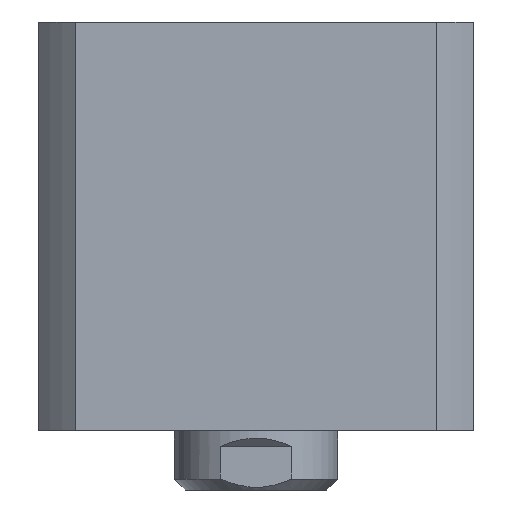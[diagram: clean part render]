
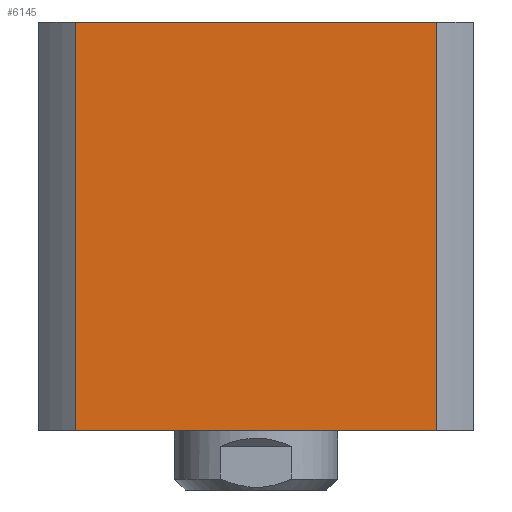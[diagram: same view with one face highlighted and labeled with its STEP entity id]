
A CAD part, left-side view. The second image highlights one B-rep face of the part: STEP entity #6145.
In plain terms, the highlighted planar face has unit normal (-1, 0, 0).
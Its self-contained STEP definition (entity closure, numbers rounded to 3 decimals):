
#54 = DIRECTION ( 'NONE',  ( 0., 1., 0. ) ) ;
#727 = AXIS2_PLACEMENT_3D ( 'NONE', #4091, #13024, #54 ) ;
#744 = LINE ( 'NONE', #8316, #8205 ) ;
#1780 = CARTESIAN_POINT ( 'NONE',  ( -40., 33.226, 37.5 ) ) ;
#2658 = CARTESIAN_POINT ( 'NONE',  ( -40., 33.226, 37.5 ) ) ;
#2679 = EDGE_CURVE ( 'NONE', #8992, #8090, #8199, .T. ) ;
#2840 = ORIENTED_EDGE ( 'NONE', *, *, #10458, .T. ) ;
#3110 = DIRECTION ( 'NONE',  ( 0., -1., 0. ) ) ;
#4050 = ORIENTED_EDGE ( 'NONE', *, *, #8974, .T. ) ;
#4091 = CARTESIAN_POINT ( 'NONE',  ( -40., 33.226, 37.5 ) ) ;
#5285 = CARTESIAN_POINT ( 'NONE',  ( -40., 33.226, -37.5 ) ) ;
#5738 = VERTEX_POINT ( 'NONE', #13391 ) ;
#6145 = ADVANCED_FACE ( 'NONE', ( #7748 ), #9578, .F. ) ;
#6192 = EDGE_LOOP ( 'NONE', ( #4050, #6436, #13678, #2840 ) ) ;
#6436 = ORIENTED_EDGE ( 'NONE', *, *, #2679, .F. ) ;
#7182 = DIRECTION ( 'NONE',  ( 0., 0., -1. ) ) ;
#7712 = LINE ( 'NONE', #5285, #12093 ) ;
#7748 = FACE_OUTER_BOUND ( 'NONE', #6192, .T. ) ;
#8090 = VERTEX_POINT ( 'NONE', #10098 ) ;
#8199 = LINE ( 'NONE', #10380, #10731 ) ;
#8205 = VECTOR ( 'NONE', #10468, 1000. ) ;
#8316 = CARTESIAN_POINT ( 'NONE',  ( -40., 33.226, 37.5 ) ) ;
#8796 = VERTEX_POINT ( 'NONE', #1780 ) ;
#8974 = EDGE_CURVE ( 'NONE', #5738, #8090, #7712, .T. ) ;
#8992 = VERTEX_POINT ( 'NONE', #12868 ) ;
#9120 = DIRECTION ( 'NONE',  ( 0., 0., -1. ) ) ;
#9245 = VECTOR ( 'NONE', #9120, 1000. ) ;
#9578 = PLANE ( 'NONE',  #727 ) ;
#10098 = CARTESIAN_POINT ( 'NONE',  ( -40., -33.226, -37.5 ) ) ;
#10380 = CARTESIAN_POINT ( 'NONE',  ( -40., -33.226, 37.5 ) ) ;
#10458 = EDGE_CURVE ( 'NONE', #8796, #5738, #13980, .T. ) ;
#10468 = DIRECTION ( 'NONE',  ( 0., -1., 0. ) ) ;
#10731 = VECTOR ( 'NONE', #7182, 1000. ) ;
#11541 = EDGE_CURVE ( 'NONE', #8796, #8992, #744, .T. ) ;
#12093 = VECTOR ( 'NONE', #3110, 1000. ) ;
#12868 = CARTESIAN_POINT ( 'NONE',  ( -40., -33.226, 37.5 ) ) ;
#13024 = DIRECTION ( 'NONE',  ( 1., 0., 0. ) ) ;
#13391 = CARTESIAN_POINT ( 'NONE',  ( -40., 33.226, -37.5 ) ) ;
#13678 = ORIENTED_EDGE ( 'NONE', *, *, #11541, .F. ) ;
#13980 = LINE ( 'NONE', #2658, #9245 ) ;
